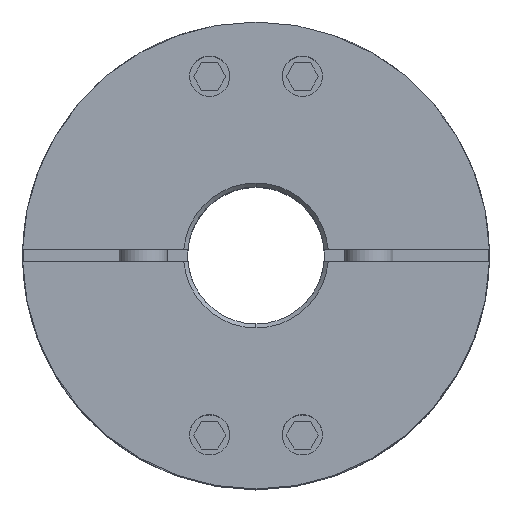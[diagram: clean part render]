
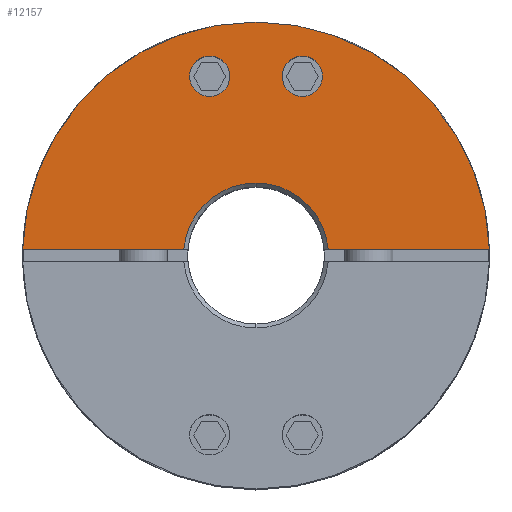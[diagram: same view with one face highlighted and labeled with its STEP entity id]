
A CAD part, top view. The second image highlights one B-rep face of the part: STEP entity #12157.
In plain terms, the highlighted planar face has unit normal (0, 0, 1).
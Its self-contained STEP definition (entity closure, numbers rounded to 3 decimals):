
#4729=CARTESIAN_POINT('',(5.759,24.767,35.75));
#4730=VERTEX_POINT('',#4729);
#4739=CARTESIAN_POINT('',(5.759,19.767,35.75));
#4740=VERTEX_POINT('',#4739);
#4741=CARTESIAN_POINT('',(5.759,22.267,35.75));
#4742=DIRECTION('',(0.0,0.0,-1.0));
#4743=DIRECTION('',(0.0,1.0,0.0));
#4744=AXIS2_PLACEMENT_3D('',#4741,#4742,#4743);
#4745=CIRCLE('',#4744,2.5);
#4746=EDGE_CURVE('',#4740,#4730,#4745,.T.);
#4771=CARTESIAN_POINT('',(-5.759,24.767,35.75));
#4772=VERTEX_POINT('',#4771);
#4781=CARTESIAN_POINT('',(-5.759,19.767,35.75));
#4782=VERTEX_POINT('',#4781);
#4783=CARTESIAN_POINT('',(-5.759,22.267,35.75));
#4784=DIRECTION('',(0.0,0.0,-1.0));
#4785=DIRECTION('',(0.0,1.0,0.0));
#4786=AXIS2_PLACEMENT_3D('',#4783,#4784,#4785);
#4787=CIRCLE('',#4786,2.5);
#4788=EDGE_CURVE('',#4782,#4772,#4787,.T.);
#5025=CARTESIAN_POINT('',(0.,29.0,35.75));
#5026=VERTEX_POINT('',#5025);
#5174=CARTESIAN_POINT('',(-28.99,0.75,35.75));
#5175=VERTEX_POINT('',#5174);
#5182=CARTESIAN_POINT('',(0.,0.0,35.75));
#5183=DIRECTION('',(0.0,0.0,-1.0));
#5184=DIRECTION('',(0.0,1.0,0.0));
#5185=AXIS2_PLACEMENT_3D('',#5182,#5183,#5184);
#5186=CIRCLE('',#5185,29.0);
#5187=EDGE_CURVE('',#5175,#5026,#5186,.T.);
#5359=CARTESIAN_POINT('',(0.,9.0,35.75));
#5360=VERTEX_POINT('',#5359);
#5376=CARTESIAN_POINT('',(8.969,0.75,35.75));
#5377=VERTEX_POINT('',#5376);
#5391=CARTESIAN_POINT('',(0.,0.0,35.75));
#5392=DIRECTION('',(0.0,0.0,1.0));
#5393=DIRECTION('',(0.0,1.0,0.0));
#5394=AXIS2_PLACEMENT_3D('',#5391,#5392,#5393);
#5395=CIRCLE('',#5394,9.0);
#5396=EDGE_CURVE('',#5377,#5360,#5395,.T.);
#11663=CARTESIAN_POINT('',(-8.969,0.75,35.75));
#11664=VERTEX_POINT('',#11663);
#11665=CARTESIAN_POINT('',(0.,0.0,35.75));
#11666=DIRECTION('',(0.0,0.0,1.0));
#11667=DIRECTION('',(0.0,1.0,0.0));
#11668=AXIS2_PLACEMENT_3D('',#11665,#11666,#11667);
#11669=CIRCLE('',#11668,9.0);
#11670=EDGE_CURVE('',#5360,#11664,#11669,.T.);
#11695=CARTESIAN_POINT('',(-28.99,0.75,35.75));
#11696=DIRECTION('',(1.0,0.0,0.0));
#11697=VECTOR('',#11696,20.022);
#11698=LINE('',#11695,#11697);
#11699=EDGE_CURVE('',#5175,#11664,#11698,.T.);
#11731=CARTESIAN_POINT('',(28.99,0.75,35.75));
#11732=VERTEX_POINT('',#11731);
#11739=CARTESIAN_POINT('',(8.969,0.75,35.75));
#11740=DIRECTION('',(1.0,0.0,0.0));
#11741=VECTOR('',#11740,20.022);
#11742=LINE('',#11739,#11741);
#11743=EDGE_CURVE('',#5377,#11732,#11742,.T.);
#11858=CARTESIAN_POINT('',(0.,0.0,35.75));
#11859=DIRECTION('',(0.0,0.0,-1.0));
#11860=DIRECTION('',(0.0,1.0,0.0));
#11861=AXIS2_PLACEMENT_3D('',#11858,#11859,#11860);
#11862=CIRCLE('',#11861,29.0);
#11863=EDGE_CURVE('',#5026,#11732,#11862,.T.);
#12096=CARTESIAN_POINT('',(-5.759,22.267,35.75));
#12097=DIRECTION('',(0.0,0.0,-1.0));
#12098=DIRECTION('',(0.0,1.0,0.0));
#12099=AXIS2_PLACEMENT_3D('',#12096,#12097,#12098);
#12100=CIRCLE('',#12099,2.5);
#12101=EDGE_CURVE('',#4772,#4782,#12100,.T.);
#12114=CARTESIAN_POINT('',(5.759,22.267,35.75));
#12115=DIRECTION('',(0.0,0.0,-1.0));
#12116=DIRECTION('',(0.0,1.0,0.0));
#12117=AXIS2_PLACEMENT_3D('',#12114,#12115,#12116);
#12118=CIRCLE('',#12117,2.5);
#12119=EDGE_CURVE('',#4730,#4740,#12118,.T.);
#12136=CARTESIAN_POINT('',(0.,2.636,35.75));
#12137=DIRECTION('',(0.0,0.0,1.0));
#12138=DIRECTION('',(0.0,1.0,0.0));
#12139=AXIS2_PLACEMENT_3D('',#12136,#12137,#12138);
#12140=PLANE('',#12139);
#12141=ORIENTED_EDGE('',*,*,#5396,.F.);
#12142=ORIENTED_EDGE('',*,*,#11743,.T.);
#12143=ORIENTED_EDGE('',*,*,#11863,.F.);
#12144=ORIENTED_EDGE('',*,*,#5187,.F.);
#12145=ORIENTED_EDGE('',*,*,#11699,.T.);
#12146=ORIENTED_EDGE('',*,*,#11670,.F.);
#12147=EDGE_LOOP('',(#12141,#12142,#12143,#12144,#12145,#12146));
#12148=FACE_OUTER_BOUND('',#12147,.T.);
#12149=ORIENTED_EDGE('',*,*,#12101,.T.);
#12150=ORIENTED_EDGE('',*,*,#4788,.T.);
#12151=EDGE_LOOP('',(#12149,#12150));
#12152=FACE_BOUND('',#12151,.T.);
#12153=ORIENTED_EDGE('',*,*,#12119,.T.);
#12154=ORIENTED_EDGE('',*,*,#4746,.T.);
#12155=EDGE_LOOP('',(#12153,#12154));
#12156=FACE_BOUND('',#12155,.T.);
#12157=ADVANCED_FACE('',(#12148,#12152,#12156),#12140,.T.);
